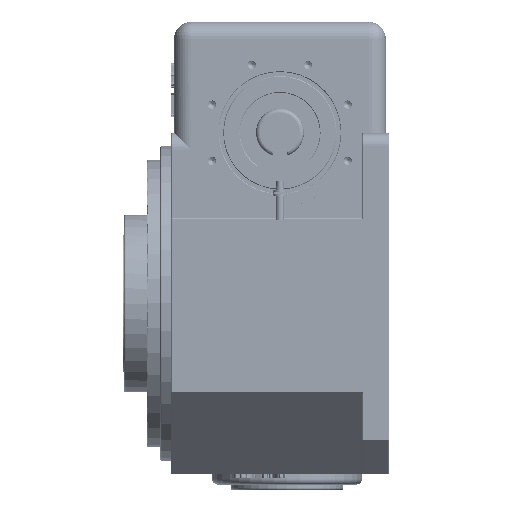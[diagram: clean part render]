
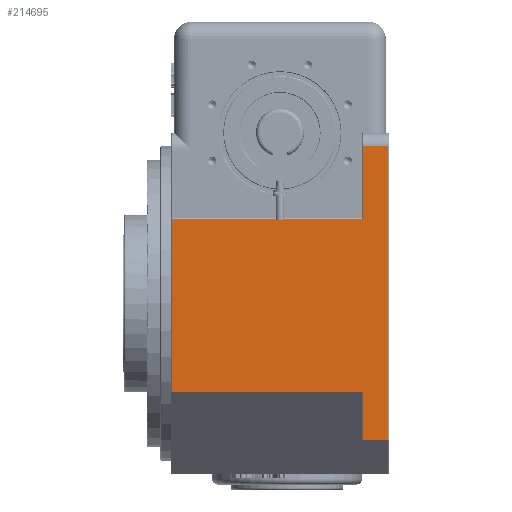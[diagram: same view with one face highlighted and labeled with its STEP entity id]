
A CAD part, left-side view. The second image highlights one B-rep face of the part: STEP entity #214695.
In plain terms, the highlighted planar face has unit normal (-1, 0, 0).
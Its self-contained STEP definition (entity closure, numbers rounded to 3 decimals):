
#59 = VECTOR ( 'NONE', #268580, 1000. ) ;
#1011 = FACE_OUTER_BOUND ( 'NONE', #217634, .T. ) ;
#6022 = VERTEX_POINT ( 'NONE', #164585 ) ;
#12044 = LINE ( 'NONE', #281923, #188859 ) ;
#17221 = LINE ( 'NONE', #126523, #255187 ) ;
#25514 = VERTEX_POINT ( 'NONE', #119163 ) ;
#28601 = LINE ( 'NONE', #168131, #205224 ) ;
#31229 = VECTOR ( 'NONE', #38185, 1000. ) ;
#38185 = DIRECTION ( 'NONE',  ( 0., 0., 1. ) ) ;
#43072 = CARTESIAN_POINT ( 'NONE',  ( -250., 318., -200. ) ) ;
#54912 = ORIENTED_EDGE ( 'NONE', *, *, #278644, .F. ) ;
#58015 = DIRECTION ( 'NONE',  ( 0., 0., -1. ) ) ;
#58018 = VERTEX_POINT ( 'NONE', #117310 ) ;
#58643 = CARTESIAN_POINT ( 'NONE',  ( -250., 38., 123. ) ) ;
#59984 = VERTEX_POINT ( 'NONE', #258817 ) ;
#68890 = LINE ( 'NONE', #130928, #59 ) ;
#70660 = VERTEX_POINT ( 'NONE', #58643 ) ;
#77989 = CARTESIAN_POINT ( 'NONE',  ( -250., 320., -130. ) ) ;
#81224 = CARTESIAN_POINT ( 'NONE',  ( -250., 320., -200. ) ) ;
#82828 = VERTEX_POINT ( 'NONE', #169098 ) ;
#83754 = ORIENTED_EDGE ( 'NONE', *, *, #151425, .F. ) ;
#101143 = DIRECTION ( 'NONE',  ( 0., 1., 0. ) ) ;
#104353 = DIRECTION ( 'NONE',  ( 0., 0., -1. ) ) ;
#114078 = EDGE_CURVE ( 'NONE', #219992, #70660, #28601, .T. ) ;
#115683 = DIRECTION ( 'NONE',  ( 0., -1., 0. ) ) ;
#117310 = CARTESIAN_POINT ( 'NONE',  ( -250., 38., -200. ) ) ;
#119163 = CARTESIAN_POINT ( 'NONE',  ( -250., 2., 230. ) ) ;
#126523 = CARTESIAN_POINT ( 'NONE',  ( -250., 2., -200. ) ) ;
#128395 = EDGE_CURVE ( 'NONE', #58018, #176307, #136680, .T. ) ;
#129436 = VECTOR ( 'NONE', #115683, 1000. ) ;
#130928 = CARTESIAN_POINT ( 'NONE',  ( -250., 38., -200. ) ) ;
#136680 = LINE ( 'NONE', #161844, #129436 ) ;
#140401 = LINE ( 'NONE', #43072, #194314 ) ;
#143006 = LINE ( 'NONE', #77989, #204114 ) ;
#144325 = DIRECTION ( 'NONE',  ( 0., -1., 0. ) ) ;
#151425 = EDGE_CURVE ( 'NONE', #70660, #59984, #68890, .T. ) ;
#161844 = CARTESIAN_POINT ( 'NONE',  ( -250., 320., -200. ) ) ;
#164585 = CARTESIAN_POINT ( 'NONE',  ( -250., 318., -130. ) ) ;
#168131 = CARTESIAN_POINT ( 'NONE',  ( -250., 320., 123. ) ) ;
#169098 = CARTESIAN_POINT ( 'NONE',  ( -250., 38., -130. ) ) ;
#176220 = CARTESIAN_POINT ( 'NONE',  ( -250., 38., -200. ) ) ;
#176307 = VERTEX_POINT ( 'NONE', #214787 ) ;
#188859 = VECTOR ( 'NONE', #144325, 1000. ) ;
#191245 = DIRECTION ( 'NONE',  ( 0., -1., 0. ) ) ;
#194314 = VECTOR ( 'NONE', #293484, 1000. ) ;
#196223 = ORIENTED_EDGE ( 'NONE', *, *, #257470, .F. ) ;
#204114 = VECTOR ( 'NONE', #101143, 1000. ) ;
#205224 = VECTOR ( 'NONE', #191245, 1000. ) ;
#207450 = EDGE_CURVE ( 'NONE', #82828, #6022, #143006, .T. ) ;
#207901 = LINE ( 'NONE', #176220, #31229 ) ;
#214695 = ADVANCED_FACE ( 'NONE', ( #1011 ), #287134, .F. ) ;
#214787 = CARTESIAN_POINT ( 'NONE',  ( -250., 2., -200. ) ) ;
#216095 = AXIS2_PLACEMENT_3D ( 'NONE', #81224, #242107, #104353 ) ;
#216789 = ORIENTED_EDGE ( 'NONE', *, *, #243065, .F. ) ;
#217634 = EDGE_LOOP ( 'NONE', ( #259104, #83754, #220535, #216789, #242768, #54912, #223756, #196223 ) ) ;
#219992 = VERTEX_POINT ( 'NONE', #282314 ) ;
#220535 = ORIENTED_EDGE ( 'NONE', *, *, #114078, .F. ) ;
#223756 = ORIENTED_EDGE ( 'NONE', *, *, #128395, .T. ) ;
#242107 = DIRECTION ( 'NONE',  ( 1., 0., 0. ) ) ;
#242768 = ORIENTED_EDGE ( 'NONE', *, *, #207450, .F. ) ;
#243065 = EDGE_CURVE ( 'NONE', #6022, #219992, #140401, .T. ) ;
#255187 = VECTOR ( 'NONE', #58015, 1000. ) ;
#257470 = EDGE_CURVE ( 'NONE', #25514, #176307, #17221, .T. ) ;
#258817 = CARTESIAN_POINT ( 'NONE',  ( -250., 38., 230. ) ) ;
#259104 = ORIENTED_EDGE ( 'NONE', *, *, #262535, .F. ) ;
#262535 = EDGE_CURVE ( 'NONE', #59984, #25514, #12044, .T. ) ;
#268580 = DIRECTION ( 'NONE',  ( 0., 0., 1. ) ) ;
#278644 = EDGE_CURVE ( 'NONE', #58018, #82828, #207901, .T. ) ;
#281923 = CARTESIAN_POINT ( 'NONE',  ( -250., 320., 230. ) ) ;
#282314 = CARTESIAN_POINT ( 'NONE',  ( -250., 318., 123. ) ) ;
#287134 = PLANE ( 'NONE',  #216095 ) ;
#293484 = DIRECTION ( 'NONE',  ( 0., 0., 1. ) ) ;
